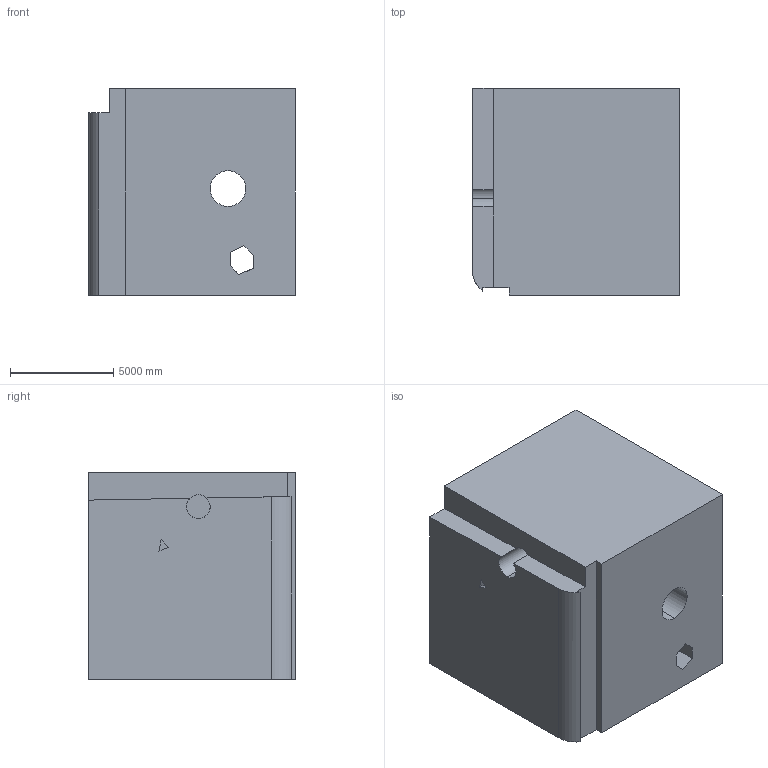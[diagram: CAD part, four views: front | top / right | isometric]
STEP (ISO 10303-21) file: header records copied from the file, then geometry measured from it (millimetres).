
FILE_DESCRIPTION (( 'STEP AP203' ), '1' );
FILE_NAME ('183.STEP', '2022-09-06T13:35:54', ( 'user' ), ( '' ), 'SwSTEP 2.0', 'SolidWorks 2021', '' );
FILE_SCHEMA (( 'CONFIG_CONTROL_DESIGN' ));
Length unit declared in the file: centimetre
Products named in the file (1): 183
Bounding box: 10000 x 10000 x 10000 mm (x, y, z)
Volume: 935716292785.5 mm3; surface area: 730544974 mm2
Topology: 1 solids, 1 shells, 42 faces, 117 edges, 78 vertices
Faces by surface type: plane 37, cylinder 5
Entity records: 1421 total; most frequent: CARTESIAN_POINT 241, ORIENTED_EDGE 234, DIRECTION 213, EDGE_CURVE 117, LINE 105, VECTOR 105, VERTEX_POINT 78, AXIS2_PLACEMENT_3D 54
